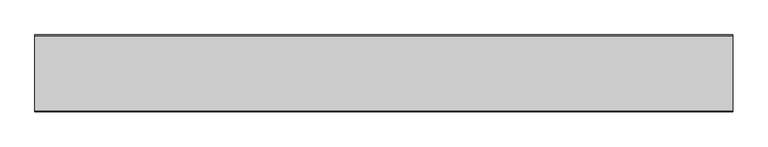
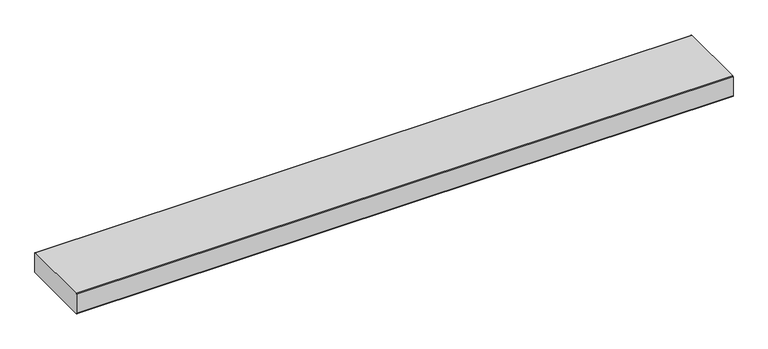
"""IFC4 building model written with IfcOpenShell, lengths in millimetres: duct fitting geometry, Кабель-канал DLP 65x220 - 2 или 3 секции - длина 2 м - белый : Кабель-канал DLP 65x220 - 2 или 3 секции - длина 2 м - белый."""

from ifc_helpers import new_model, si_unit, point, frame, frame_2d, origin, place, context, project, spatial, polyline, circle_curve, trimmed, segment, composite_curve, outline, extrude, source, transform, mapped, element, save


def duct_fitting_524967c6(model_context):
    return source(origin(), model_context, "Body", "SweptSolid", [
        extrude(outline(composite_curve([segment(trimmed(circle_curve(frame_2d((108.0, 63.0)), 2.0), [point((108.0, 65.0))], [point((110.0, 63.0))], False, "CARTESIAN"), True, "CONTINUOUS"), segment(polyline([(110.0, 63.0), (110.0, 2.0)]), True, "CONTINUOUS"), segment(trimmed(circle_curve(frame_2d((108.0, 2.0)), 2.0), [point((110.0, 2.0))], [point((108.0, 0.0))], False, "CARTESIAN"), True, "CONTINUOUS"), segment(polyline([(108.0, 0.0), (-108.0, 0.0)]), True, "CONTINUOUS"), segment(trimmed(circle_curve(frame_2d((-108.0, 2.0)), 2.0), [point((-108.0, 0.0))], [point((-110.0, 2.0))], False, "CARTESIAN"), True, "CONTINUOUS"), segment(polyline([(-110.0, 2.0), (-110.0, 63.0)]), True, "CONTINUOUS"), segment(trimmed(circle_curve(frame_2d((-108.0, 63.0)), 2.0), [point((-110.0, 63.0))], [point((-108.0, 65.0))], False, "CARTESIAN"), True, "CONTINUOUS"), segment(polyline([(-108.0, 65.0), (108.0, 65.0)]), True, "CONTINUOUS")], self_intersect=False)), frame((-1000.0, 0.0, 0.0), z_axis=(1.0, 0.0, 0.0), x_axis=(0.0, 1.0, 0.0)), (0.0, 0.0, 1.0), 2000.0),
    ])


if __name__ == "__main__":
    model = new_model("IFC4")
    model_context = context("Model", 3, world=origin())
    ifc_project = project(units=[si_unit("LENGTHUNIT", "METRE", prefix="MILLI")], contexts=[model_context])
    site = spatial("IfcSite", under=ifc_project)
    building = spatial("IfcBuilding", under=site)
    placement = place(None, origin())
    duct_fitting_shape = duct_fitting_524967c6(model_context)
    element("IfcDuctFitting", 1, ObjectType="Кабель-канал DLP 65x220 - 2 или 3 секции - длина 2 м - белый : Кабель-канал DLP 65x220 - 2 или 3 секции - длина 2 м - белый", at=placement, inside=building, context=model_context, shape_type="MappedRepresentation", body=[
        mapped(duct_fitting_shape, transform((0.0, 0.0, 0.0), x_axis=(1.0, 0.0, 0.0), y_axis=(0.0, 1.0, 0.0), z_axis=(0.0, 0.0, 1.0))),
    ])
    save(model, "model.ifc")
